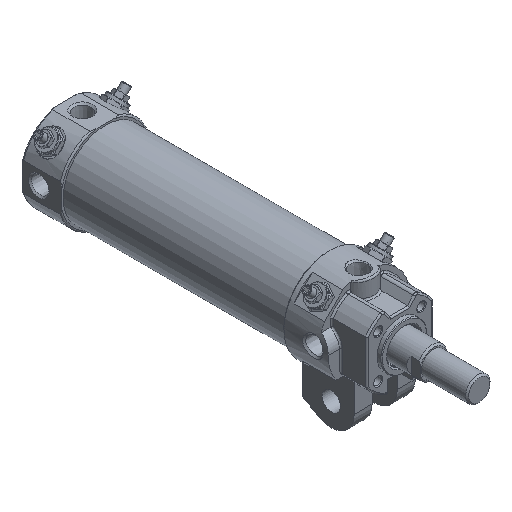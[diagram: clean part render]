
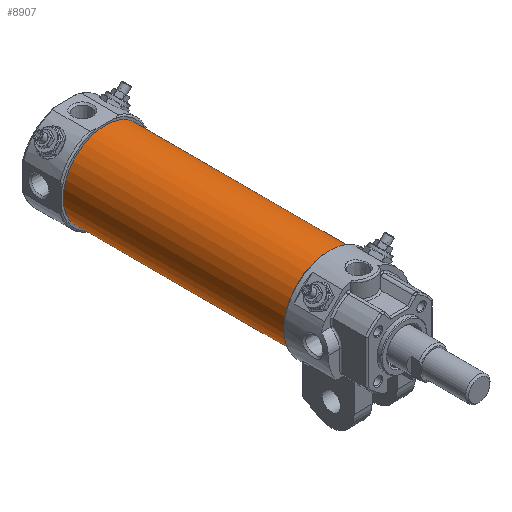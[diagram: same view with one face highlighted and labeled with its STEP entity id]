
A CAD part, isometric view. The second image highlights one B-rep face of the part: STEP entity #8907.
In plain terms, the highlighted cylindrical face has radius 27.5 mm (diameter 55 mm), a full revolution.
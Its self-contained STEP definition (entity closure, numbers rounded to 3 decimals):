
#996=CARTESIAN_POINT('',(27.5,196.0,0.));
#997=VERTEX_POINT('',#996);
#998=CARTESIAN_POINT('',(0.,196.0,0.));
#999=DIRECTION('',(0.0,-1.0,0.0));
#1000=DIRECTION('',(-1.0,0.0,0.0));
#1001=AXIS2_PLACEMENT_3D('',#998,#999,#1000);
#1002=CIRCLE('',#1001,27.5);
#1003=EDGE_CURVE('',#997,#997,#1002,.T.);
#8884=CARTESIAN_POINT('',(27.5,50.,0.));
#8885=VERTEX_POINT('',#8884);
#8886=CARTESIAN_POINT('',(0.,50.,0.));
#8887=DIRECTION('',(0.0,-1.0,0.0));
#8888=DIRECTION('',(-1.0,0.0,0.0));
#8889=AXIS2_PLACEMENT_3D('',#8886,#8887,#8888);
#8890=CIRCLE('',#8889,27.5);
#8891=EDGE_CURVE('',#8885,#8885,#8890,.T.);
#8896=CARTESIAN_POINT('',(0.,50.,0.));
#8897=DIRECTION('',(0.0,1.0,0.));
#8898=DIRECTION('',(-1.0,0.0,0.0));
#8899=AXIS2_PLACEMENT_3D('',#8896,#8897,#8898);
#8900=CYLINDRICAL_SURFACE('',#8899,27.5);
#8901=ORIENTED_EDGE('',*,*,#1003,.T.);
#8902=EDGE_LOOP('',(#8901));
#8903=FACE_OUTER_BOUND('',#8902,.T.);
#8904=ORIENTED_EDGE('',*,*,#8891,.F.);
#8905=EDGE_LOOP('',(#8904));
#8906=FACE_BOUND('',#8905,.T.);
#8907=ADVANCED_FACE('',(#8903,#8906),#8900,.T.);
